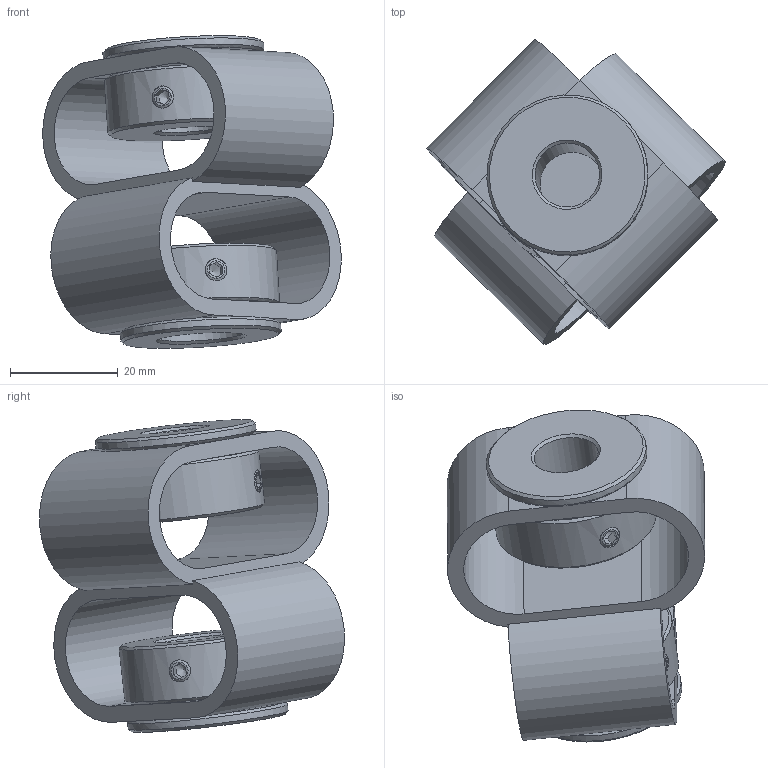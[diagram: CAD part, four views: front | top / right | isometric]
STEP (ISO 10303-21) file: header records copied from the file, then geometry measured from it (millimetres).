
FILE_DESCRIPTION(/* description */ (''),/* implementation_level */ '2;1');
FILE_NAME(/* name */ 'E:\ABP_bauteile\Doppelschlaufenkupplung\DKPS_5658\Doppelschlaufenkupplung_DKPS_5658_12_16.stp',/* time_stamp */ '2015-03-13T11:33:04+01:00',/* author */ ('Rob'),/* organization */ (''),/* preprocessor_version */ 'ST-DEVELOPER v15.6',/* originating_system */ 'Autodesk Inventor 2015',/* authorisation */ '');
FILE_SCHEMA (('CONFIG_CONTROL_DESIGN'));
Length unit declared in the file: millimetre
Products named in the file (1): Bauteil42
Bounding box: 55.53 x 56.74 x 58.16 mm (x, y, z)
Volume: 31540.4 mm3; surface area: 18118.5 mm2
Topology: 1 solids, 1 shells, 142 faces, 360 edges, 218 vertices
Faces by surface type: plane 84, cone 30, cylinder 28
Full cylindrical faces by diameter (mm): 4.134 x8, 12 x1, 16 x1, 21.5 x2, 23 x4, 30 x4
Entity records: 4088 total; most frequent: CARTESIAN_POINT 1027, DIRECTION 646, ORIENTED_EDGE 556, EDGE_CURVE 278, AXIS2_PLACEMENT_3D 257, EDGE_LOOP 210, VERTEX_POINT 182, FACE_OUTER_BOUND 142
